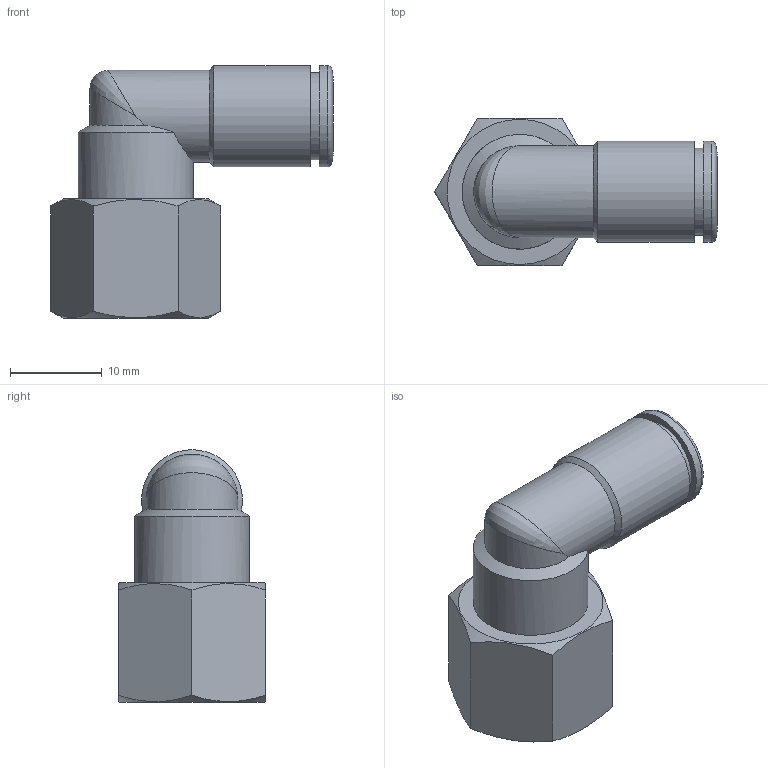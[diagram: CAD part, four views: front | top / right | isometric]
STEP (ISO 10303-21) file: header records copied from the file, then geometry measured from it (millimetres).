
FILE_DESCRIPTION(('Bauteilbeschreibung','HiCAD-Model','HiCAD-STEP-TRANSLATION','Bauteilbeschreibung'),'2;1');
FILE_NAME('B:/ABGLEICH/ZEICHNUNGEN/STEP FÜR INTERNET/STEP/IPSO 022-F/202804_IPSO_022-F_6_1-4.STP','2012-02-09T17:18:53+00:00',('Konstrukteur'),('Konstrukteur Firma GmbH'),' HiCAD neXt 2008, Step 3.1.1401.2J ','HiCAD neXt 2008','confidential');
FILE_SCHEMA(('AUTOMOTIVE_DESIGN { 1 2 10303 214 0 1 1 1 }'));
Length unit declared in the file: millimetre
Products named in the file (6): A02804_IPSO_022_F_6_1_4; DR6_1_NEU; R202203_N2; A14623_N2; A146230N2; G 1_4
Assembly tree (5 placements, depth 3):
  A02804_IPSO_022_F_6_1_4
    DR6_1_NEU
    R202203_N2
    A14623_N2
    A146230N2
      G 1_4
Bounding box: 30.74 x 16 x 27.5 mm (x, y, z)
Volume: 3432.4 mm3; surface area: 4914.3 mm2
Topology: 4 solids, 4 shells, 62 faces, 134 edges, 82 vertices
Faces by surface type: cylinder 22, plane 19, cone 19, torus 1, bspline 1
Full cylindrical faces by diameter (mm): 4 x1, 5.5 x1, 6 x1, 6.1 x1, 6.2 x1, 8.3 x1, 9 x3, 9.5 x1, 9.6 x1, 10 x1, 10.1 x2, 11 x2, 11.445 x2, 12.5 x1, 13.157 x2
Entity records: 2991 total; most frequent: CARTESIAN_POINT 1376, DIRECTION 256, ORIENTED_EDGE 156, AXIS2_PLACEMENT_3D 125, EDGE_LOOP 115, EDGE_CURVE 78, COLOUR_RGB 76, PRESENTATION_STYLE_ASSIGNMENT 76
